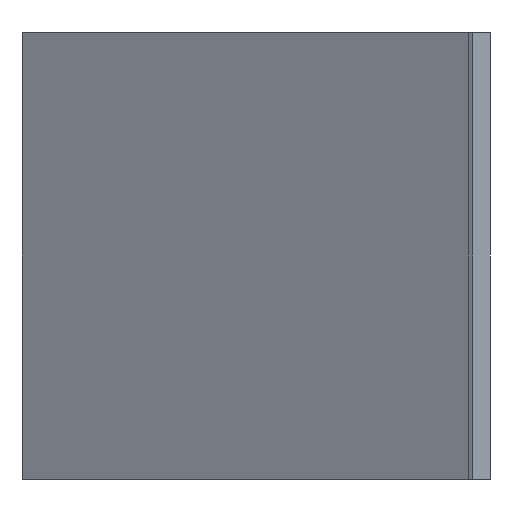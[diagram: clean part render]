
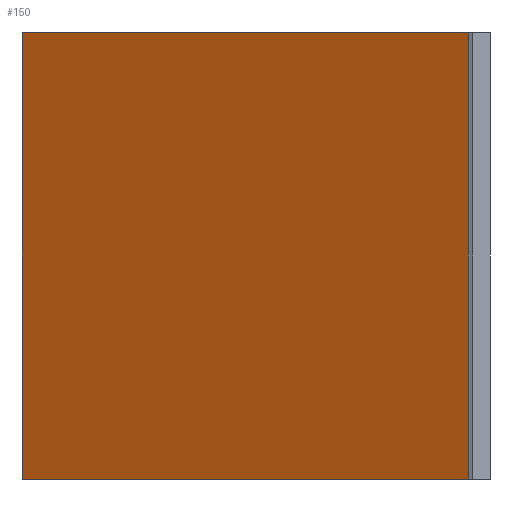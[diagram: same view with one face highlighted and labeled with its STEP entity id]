
A CAD part, left-side view. The second image highlights one B-rep face of the part: STEP entity #150.
In plain terms, the highlighted planar face has unit normal (0.869, -0.494, 0).
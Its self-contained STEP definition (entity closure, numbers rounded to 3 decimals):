
#98=CARTESIAN_POINT('Vertex',(20.,0.,0.)) ;
#101=CARTESIAN_POINT('Line Origine',(20.,0.,51.)) ;
#105=CARTESIAN_POINT('Vertex',(20.,0.,102.)) ;
#120=CARTESIAN_POINT('Axis2P3D Location',(20.,0.,0.)) ;
#125=CARTESIAN_POINT('Line Origine',(49.,51.,0.)) ;
#129=CARTESIAN_POINT('Vertex',(78.,102.,0.)) ;
#132=CARTESIAN_POINT('Line Origine',(78.,102.,51.)) ;
#136=CARTESIAN_POINT('Vertex',(78.,102.,102.)) ;
#139=CARTESIAN_POINT('Line Origine',(49.,51.,102.)) ;
#102=DIRECTION('Vector Direction',(0.,0.,1.)) ;
#121=DIRECTION('Axis2P3D Direction',(0.869,-0.494,0.)) ;
#122=DIRECTION('Axis2P3D XDirection',(0.494,0.869,0.)) ;
#126=DIRECTION('Vector Direction',(0.494,0.869,0.)) ;
#133=DIRECTION('Vector Direction',(0.,0.,1.)) ;
#140=DIRECTION('Vector Direction',(0.494,0.869,0.)) ;
#123=AXIS2_PLACEMENT_3D('Plane Axis2P3D',#120,#121,#122) ;
#145=ORIENTED_EDGE('',*,*,#107,.F.) ;
#146=ORIENTED_EDGE('',*,*,#131,.T.) ;
#147=ORIENTED_EDGE('',*,*,#138,.T.) ;
#148=ORIENTED_EDGE('',*,*,#143,.F.) ;
#103=VECTOR('Line Direction',#102,1.) ;
#127=VECTOR('Line Direction',#126,1.) ;
#134=VECTOR('Line Direction',#133,1.) ;
#141=VECTOR('Line Direction',#140,1.) ;
#150=ADVANCED_FACE('Extrude.1',(#149),#124,.T.) ;
#107=EDGE_CURVE('',#99,#106,#104,.T.) ;
#131=EDGE_CURVE('',#99,#130,#128,.T.) ;
#138=EDGE_CURVE('',#130,#137,#135,.T.) ;
#143=EDGE_CURVE('',#106,#137,#142,.T.) ;
#144=EDGE_LOOP('',(#145,#146,#147,#148)) ;
#149=FACE_OUTER_BOUND('',#144,.T.) ;
#104=LINE('Line',#101,#103) ;
#128=LINE('Line',#125,#127) ;
#135=LINE('Line',#132,#134) ;
#142=LINE('Line',#139,#141) ;
#124=PLANE('',#123) ;
#99=VERTEX_POINT('',#98) ;
#106=VERTEX_POINT('',#105) ;
#130=VERTEX_POINT('',#129) ;
#137=VERTEX_POINT('',#136) ;
